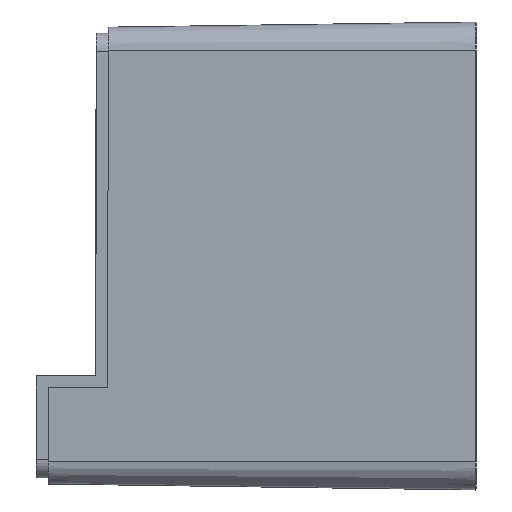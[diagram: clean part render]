
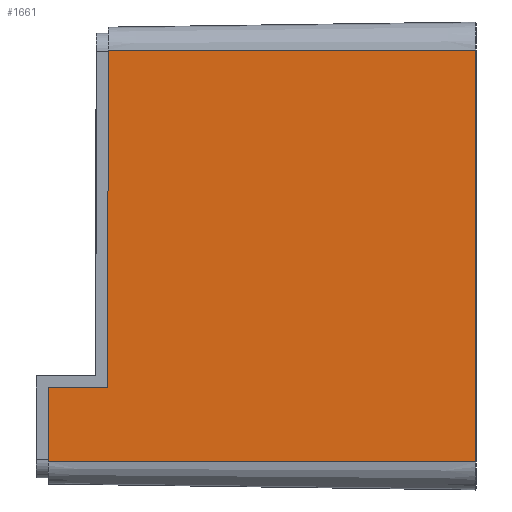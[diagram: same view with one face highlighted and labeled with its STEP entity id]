
A CAD part, left-side view. The second image highlights one B-rep face of the part: STEP entity #1661.
In plain terms, the highlighted planar face has unit normal (-1, 0.014, 0).
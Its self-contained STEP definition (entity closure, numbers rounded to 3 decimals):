
#53 = EDGE_CURVE ( 'NONE', #3521, #3807, #3029, .T. ) ;
#66 = EDGE_LOOP ( 'NONE', ( #145, #3003, #308, #715, #4272, #4333 ) ) ;
#127 = VECTOR ( 'NONE', #2331, 1000. ) ;
#145 = ORIENTED_EDGE ( 'NONE', *, *, #2860, .T. ) ;
#260 = CARTESIAN_POINT ( 'NONE',  ( 0., 0., -7. ) ) ;
#308 = ORIENTED_EDGE ( 'NONE', *, *, #483, .F. ) ;
#440 = CARTESIAN_POINT ( 'NONE',  ( 1.285, 92., -91.464 ) ) ;
#477 = CARTESIAN_POINT ( 'NONE',  ( 0., 0., -7. ) ) ;
#483 = EDGE_CURVE ( 'NONE', #1614, #2163, #2597, .T. ) ;
#588 = DIRECTION ( 'NONE',  ( -1., 0.014, 0. ) ) ;
#715 = ORIENTED_EDGE ( 'NONE', *, *, #2353, .T. ) ;
#921 = CARTESIAN_POINT ( 'NONE',  ( 1.285, 92., -7. ) ) ;
#1046 = CARTESIAN_POINT ( 'NONE',  ( 1.494, 107., -91.464 ) ) ;
#1159 = LINE ( 'NONE', #3164, #1454 ) ;
#1226 = DIRECTION ( 'NONE',  ( 0., 0., 1. ) ) ;
#1239 = VERTEX_POINT ( 'NONE', #440 ) ;
#1257 = PLANE ( 'NONE',  #2627 ) ;
#1344 = CARTESIAN_POINT ( 'NONE',  ( 0., 0., -7. ) ) ;
#1415 = LINE ( 'NONE', #921, #127 ) ;
#1454 = VECTOR ( 'NONE', #4223, 1000. ) ;
#1551 = DIRECTION ( 'NONE',  ( -0.014, -1., 0. ) ) ;
#1614 = VERTEX_POINT ( 'NONE', #1795 ) ;
#1661 = ADVANCED_FACE ( 'NONE', ( #2690 ), #1257, .T. ) ;
#1784 = VECTOR ( 'NONE', #1551, 1000. ) ;
#1795 = CARTESIAN_POINT ( 'NONE',  ( 1.494, 107., -110. ) ) ;
#1997 = DIRECTION ( 'NONE',  ( -0.014, -1., 0. ) ) ;
#2163 = VERTEX_POINT ( 'NONE', #1046 ) ;
#2258 = LINE ( 'NONE', #3195, #1784 ) ;
#2274 = VERTEX_POINT ( 'NONE', #3142 ) ;
#2301 = DIRECTION ( 'NONE',  ( -0.014, -1., 0. ) ) ;
#2331 = DIRECTION ( 'NONE',  ( 0., 0., -1. ) ) ;
#2353 = EDGE_CURVE ( 'NONE', #1614, #2274, #1159, .T. ) ;
#2452 = VECTOR ( 'NONE', #2522, 1000. ) ;
#2522 = DIRECTION ( 'NONE',  ( 0., 0., 1. ) ) ;
#2597 = LINE ( 'NONE', #3991, #2636 ) ;
#2627 = AXIS2_PLACEMENT_3D ( 'NONE', #3744, #588, #1997 ) ;
#2636 = VECTOR ( 'NONE', #1226, 1000. ) ;
#2690 = FACE_OUTER_BOUND ( 'NONE', #66, .T. ) ;
#2860 = EDGE_CURVE ( 'NONE', #3521, #1239, #1415, .T. ) ;
#3003 = ORIENTED_EDGE ( 'NONE', *, *, #3304, .F. ) ;
#3029 = LINE ( 'NONE', #260, #4312 ) ;
#3142 = CARTESIAN_POINT ( 'NONE',  ( 0., 0., -110. ) ) ;
#3164 = CARTESIAN_POINT ( 'NONE',  ( 0., 0., -110. ) ) ;
#3195 = CARTESIAN_POINT ( 'NONE',  ( 0., 0., -91.464 ) ) ;
#3304 = EDGE_CURVE ( 'NONE', #2163, #1239, #2258, .T. ) ;
#3521 = VERTEX_POINT ( 'NONE', #3567 ) ;
#3545 = EDGE_CURVE ( 'NONE', #2274, #3807, #3614, .T. ) ;
#3567 = CARTESIAN_POINT ( 'NONE',  ( 1.285, 92., -7. ) ) ;
#3614 = LINE ( 'NONE', #477, #2452 ) ;
#3744 = CARTESIAN_POINT ( 'NONE',  ( 0., 0., -7. ) ) ;
#3807 = VERTEX_POINT ( 'NONE', #1344 ) ;
#3991 = CARTESIAN_POINT ( 'NONE',  ( 1.494, 107., -7. ) ) ;
#4223 = DIRECTION ( 'NONE',  ( -0.014, -1., 0. ) ) ;
#4272 = ORIENTED_EDGE ( 'NONE', *, *, #3545, .T. ) ;
#4312 = VECTOR ( 'NONE', #2301, 1000. ) ;
#4333 = ORIENTED_EDGE ( 'NONE', *, *, #53, .F. ) ;
